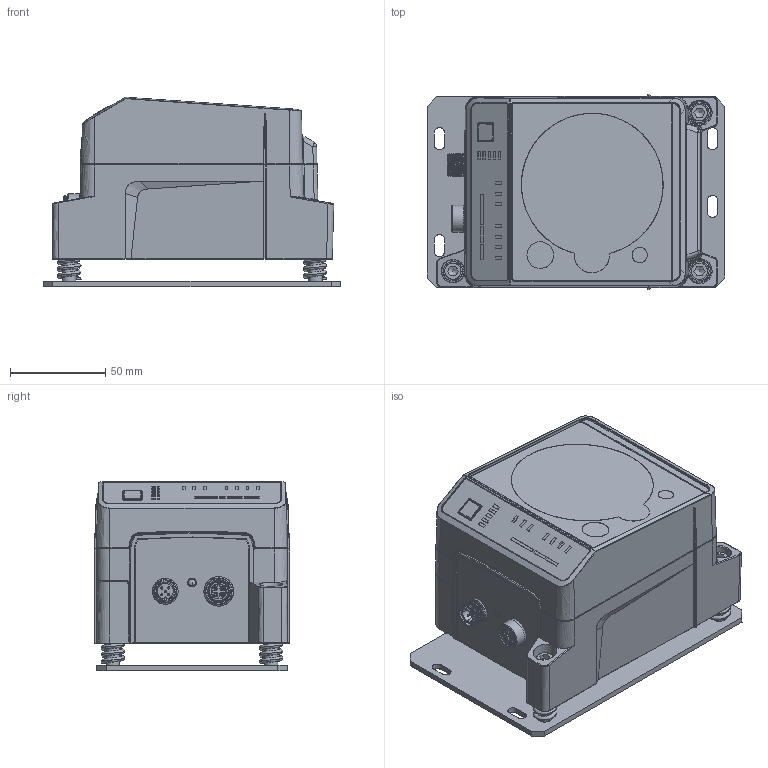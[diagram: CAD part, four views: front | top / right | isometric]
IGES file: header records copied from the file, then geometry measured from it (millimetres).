
Global section: file name: E:\lem\3DCAD_DDLS500.igs; native system: NX V8.5; preprocessor: SIEMENS PLM Software NX 8.5; date: 20140617.150358; units: millimetre
Bounding box: 156 x 102.2 x 99.48 mm (x, y, z)
Surface area: 162511.6 mm2 (no closed solid volume)
Topology: 0 solids, 0 shells, 2523 faces, 14633 edges, 14499 vertices
Faces by surface type: bspline 2523
